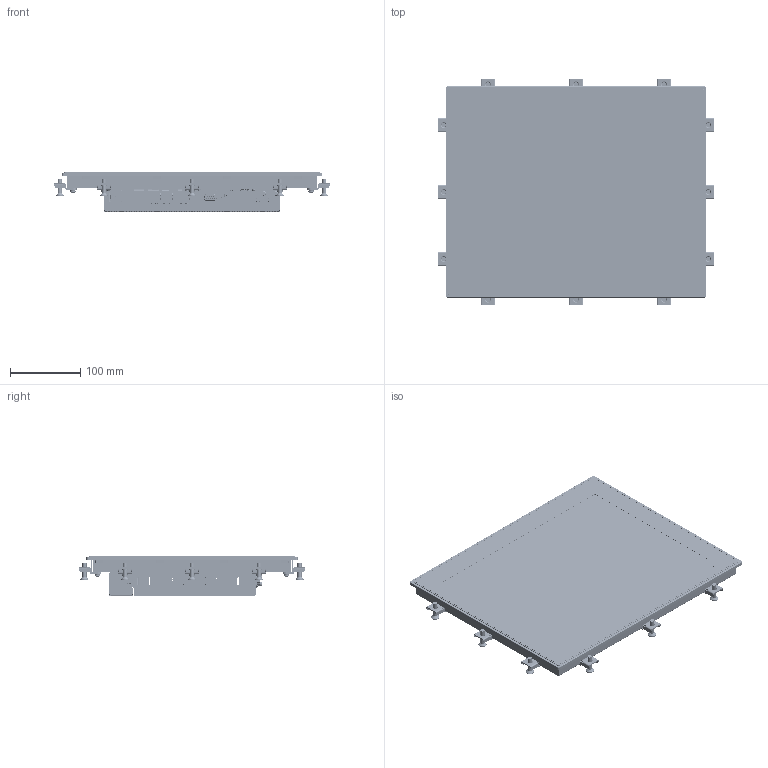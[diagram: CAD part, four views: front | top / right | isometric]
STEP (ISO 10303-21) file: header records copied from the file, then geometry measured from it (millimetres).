
FILE_DESCRIPTION((''),'2;1');
FILE_NAME('AP6A-150','2026-06-02T13:07:19',('gijyu181'),(''),'CREO PARAMETRIC BY PTC INC, 2018050','CREO PARAMETRIC BY PTC INC, 2018050','');
FILE_SCHEMA(('CONFIG_CONTROL_DESIGN','SHAPE_APPEARANCE_LAYERS_GROUPS'));
Products named in the file (1): AP6A-150
Bounding box: 391.4 x 321.4 x 56.87 mm (x, y, z)
Volume: 1796640.4 mm3; surface area: 1194636.9 mm2
Topology: 7 solids, 113 shells, 34548 faces, 100970 edges, 66657 vertices
Faces by surface type: plane 23597, cylinder 8014, extrusion 1524, cone 686, bspline 374, torus 252, sphere 101
Entity records: 1307213 total; most frequent: CARTESIAN_POINT 248639, ORIENTED_EDGE 201015, DIRECTION 180581, EDGE_CURVE 100906, VECTOR 79549, LINE 78025, VERTEX_POINT 66658, AXIS2_PLACEMENT_3D 50516
